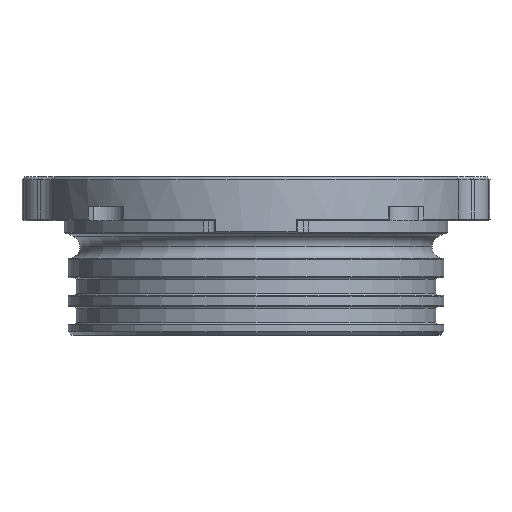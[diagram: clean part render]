
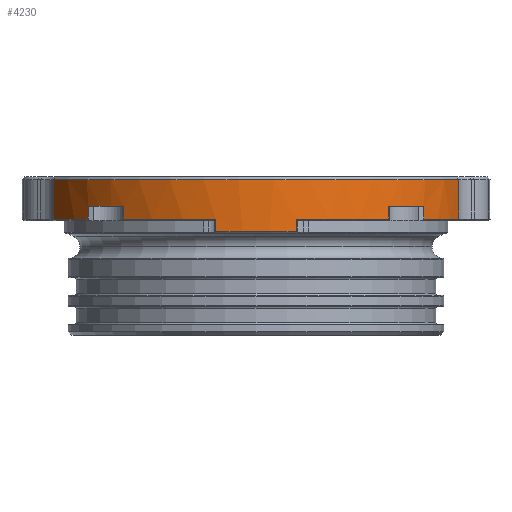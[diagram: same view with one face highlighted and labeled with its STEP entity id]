
A CAD part, left-side view. The second image highlights one B-rep face of the part: STEP entity #4230.
In plain terms, the highlighted cylindrical face has radius 29 mm (diameter 58 mm), a partial arc.
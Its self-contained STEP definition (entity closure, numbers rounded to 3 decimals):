
#86 = DIRECTION ( 'NONE',  ( 0., 1., 0. ) ) ;
#139 = CARTESIAN_POINT ( 'NONE',  ( 0., 0., 0. ) ) ;
#146 = VERTEX_POINT ( 'NONE', #4382 ) ;
#198 = CARTESIAN_POINT ( 'NONE',  ( -17.978, 22.755, 17.5 ) ) ;
#253 = LINE ( 'NONE', #4855, #3101 ) ;
#269 = ORIENTED_EDGE ( 'NONE', *, *, #1324, .T. ) ;
#450 = ORIENTED_EDGE ( 'NONE', *, *, #5236, .T. ) ;
#479 = EDGE_CURVE ( 'NONE', #6402, #5181, #986, .T. ) ;
#488 = DIRECTION ( 'NONE',  ( 0., 0., 1. ) ) ;
#499 = EDGE_CURVE ( 'NONE', #6505, #1263, #6293, .T. ) ;
#513 = LINE ( 'NONE', #643, #8127 ) ;
#551 = VERTEX_POINT ( 'NONE', #692 ) ;
#625 = ORIENTED_EDGE ( 'NONE', *, *, #693, .T. ) ;
#643 = CARTESIAN_POINT ( 'NONE',  ( -9.35, -27.451, 0. ) ) ;
#692 = CARTESIAN_POINT ( 'NONE',  ( -17.978, -22.755, 17.5 ) ) ;
#693 = EDGE_CURVE ( 'NONE', #5525, #3648, #6215, .T. ) ;
#803 = DIRECTION ( 'NONE',  ( 0., 0., 1. ) ) ;
#944 = VECTOR ( 'NONE', #5088, 1000. ) ;
#986 = LINE ( 'NONE', #4994, #7956 ) ;
#1068 = CIRCLE ( 'NONE', #3260, 29. ) ;
#1081 = CARTESIAN_POINT ( 'NONE',  ( -9.35, 27.451, 0. ) ) ;
#1263 = VERTEX_POINT ( 'NONE', #8401 ) ;
#1303 = VECTOR ( 'NONE', #6731, 1000. ) ;
#1324 = EDGE_CURVE ( 'NONE', #3365, #4732, #5669, .T. ) ;
#1354 = CIRCLE ( 'NONE', #8582, 29. ) ;
#1359 = VERTEX_POINT ( 'NONE', #7710 ) ;
#1433 = CARTESIAN_POINT ( 'NONE',  ( 0., 0., 21.1 ) ) ;
#1518 = CARTESIAN_POINT ( 'NONE',  ( 0., 0., 17.5 ) ) ;
#1532 = ORIENTED_EDGE ( 'NONE', *, *, #499, .T. ) ;
#1599 = DIRECTION ( 'NONE',  ( 0., 1., 0. ) ) ;
#1627 = AXIS2_PLACEMENT_3D ( 'NONE', #139, #2157, #1599 ) ;
#1810 = DIRECTION ( 'NONE',  ( 0., 0., 1. ) ) ;
#1817 = CARTESIAN_POINT ( 'NONE',  ( 0., 0., 15.754 ) ) ;
#1928 = EDGE_CURVE ( 'NONE', #6221, #6505, #2110, .T. ) ;
#2017 = EDGE_CURVE ( 'NONE', #4732, #6402, #2430, .T. ) ;
#2022 = ORIENTED_EDGE ( 'NONE', *, *, #4585, .T. ) ;
#2107 = EDGE_CURVE ( 'NONE', #7263, #5725, #513, .T. ) ;
#2110 = LINE ( 'NONE', #7030, #2141 ) ;
#2137 = CARTESIAN_POINT ( 'NONE',  ( -22.755, -17.978, 0. ) ) ;
#2141 = VECTOR ( 'NONE', #2200, 1000. ) ;
#2157 = DIRECTION ( 'NONE',  ( 0., 0., -1. ) ) ;
#2200 = DIRECTION ( 'NONE',  ( 0., 0., 1. ) ) ;
#2221 = AXIS2_PLACEMENT_3D ( 'NONE', #5024, #3089, #6386 ) ;
#2225 = DIRECTION ( 'NONE',  ( 0., 0., -1. ) ) ;
#2248 = CIRCLE ( 'NONE', #8233, 29. ) ;
#2430 = CIRCLE ( 'NONE', #2703, 29. ) ;
#2474 = AXIS2_PLACEMENT_3D ( 'NONE', #7750, #488, #5045 ) ;
#2663 = CARTESIAN_POINT ( 'NONE',  ( 0., 0., 14.05 ) ) ;
#2703 = AXIS2_PLACEMENT_3D ( 'NONE', #1518, #3547, #6335 ) ;
#2767 = ORIENTED_EDGE ( 'NONE', *, *, #2107, .T. ) ;
#2959 = VERTEX_POINT ( 'NONE', #4527 ) ;
#3007 = ORIENTED_EDGE ( 'NONE', *, *, #2017, .T. ) ;
#3049 = CARTESIAN_POINT ( 'NONE',  ( -22.755, -17.978, 17.5 ) ) ;
#3064 = ORIENTED_EDGE ( 'NONE', *, *, #3065, .T. ) ;
#3065 = EDGE_CURVE ( 'NONE', #5725, #1359, #1068, .T. ) ;
#3089 = DIRECTION ( 'NONE',  ( 0., 0., 1. ) ) ;
#3101 = VECTOR ( 'NONE', #2225, 1000. ) ;
#3193 = ORIENTED_EDGE ( 'NONE', *, *, #6559, .T. ) ;
#3260 = AXIS2_PLACEMENT_3D ( 'NONE', #1433, #7962, #4083 ) ;
#3296 = CARTESIAN_POINT ( 'NONE',  ( -28.478, 5.479, 14.05 ) ) ;
#3365 = VERTEX_POINT ( 'NONE', #8300 ) ;
#3430 = EDGE_CURVE ( 'NONE', #3648, #6221, #4942, .T. ) ;
#3510 = CARTESIAN_POINT ( 'NONE',  ( 0., 0., 15.754 ) ) ;
#3547 = DIRECTION ( 'NONE',  ( 0., 0., 1. ) ) ;
#3648 = VERTEX_POINT ( 'NONE', #3296 ) ;
#3692 = ORIENTED_EDGE ( 'NONE', *, *, #479, .T. ) ;
#3852 = CARTESIAN_POINT ( 'NONE',  ( -9.35, -27.451, 15.754 ) ) ;
#3893 = EDGE_CURVE ( 'NONE', #2959, #7263, #1354, .T. ) ;
#3900 = ORIENTED_EDGE ( 'NONE', *, *, #1928, .T. ) ;
#3903 = CARTESIAN_POINT ( 'NONE',  ( -9.35, -27.451, 21.1 ) ) ;
#4044 = CIRCLE ( 'NONE', #2221, 29. ) ;
#4083 = DIRECTION ( 'NONE',  ( 0., -1., 0. ) ) ;
#4208 = ORIENTED_EDGE ( 'NONE', *, *, #3430, .T. ) ;
#4230 = ADVANCED_FACE ( 'NONE', ( #5477 ), #5568, .T. ) ;
#4265 = CARTESIAN_POINT ( 'NONE',  ( -22.755, 17.978, 15.754 ) ) ;
#4382 = CARTESIAN_POINT ( 'NONE',  ( -9.35, 27.451, 15.754 ) ) ;
#4448 = EDGE_CURVE ( 'NONE', #1359, #146, #7687, .T. ) ;
#4527 = CARTESIAN_POINT ( 'NONE',  ( -17.978, -22.755, 15.754 ) ) ;
#4535 = ORIENTED_EDGE ( 'NONE', *, *, #4448, .T. ) ;
#4563 = DIRECTION ( 'NONE',  ( 0., 0., 1. ) ) ;
#4585 = EDGE_CURVE ( 'NONE', #1263, #7167, #6726, .T. ) ;
#4732 = VERTEX_POINT ( 'NONE', #198 ) ;
#4855 = CARTESIAN_POINT ( 'NONE',  ( -17.978, -22.755, 0. ) ) ;
#4931 = DIRECTION ( 'NONE',  ( 0., 0., 1. ) ) ;
#4942 = CIRCLE ( 'NONE', #8278, 29. ) ;
#4975 = VECTOR ( 'NONE', #5296, 1000. ) ;
#4994 = CARTESIAN_POINT ( 'NONE',  ( -22.755, 17.978, 0. ) ) ;
#5024 = CARTESIAN_POINT ( 'NONE',  ( 0., 0., 17.5 ) ) ;
#5045 = DIRECTION ( 'NONE',  ( 0., 1., 0. ) ) ;
#5088 = DIRECTION ( 'NONE',  ( 0., 0., -1. ) ) ;
#5181 = VERTEX_POINT ( 'NONE', #4265 ) ;
#5236 = EDGE_CURVE ( 'NONE', #5181, #5525, #6381, .T. ) ;
#5296 = DIRECTION ( 'NONE',  ( 0., 0., 1. ) ) ;
#5374 = DIRECTION ( 'NONE',  ( 0., 1., 0. ) ) ;
#5440 = CARTESIAN_POINT ( 'NONE',  ( -28.478, 5.479, 15.754 ) ) ;
#5477 = FACE_OUTER_BOUND ( 'NONE', #8124, .T. ) ;
#5513 = CARTESIAN_POINT ( 'NONE',  ( -28.478, 5.479, 0. ) ) ;
#5525 = VERTEX_POINT ( 'NONE', #5440 ) ;
#5568 = CYLINDRICAL_SURFACE ( 'NONE', #1627, 29. ) ;
#5585 = CARTESIAN_POINT ( 'NONE',  ( -17.978, 22.755, 0. ) ) ;
#5669 = LINE ( 'NONE', #5585, #7001 ) ;
#5725 = VERTEX_POINT ( 'NONE', #3903 ) ;
#6003 = EDGE_CURVE ( 'NONE', #7167, #551, #4044, .T. ) ;
#6127 = CARTESIAN_POINT ( 'NONE',  ( -28.482, -5.457, 14.05 ) ) ;
#6152 = DIRECTION ( 'NONE',  ( 0., 1., 0. ) ) ;
#6215 = LINE ( 'NONE', #5513, #1303 ) ;
#6221 = VERTEX_POINT ( 'NONE', #6127 ) ;
#6288 = CARTESIAN_POINT ( 'NONE',  ( -22.755, 17.978, 17.5 ) ) ;
#6293 = CIRCLE ( 'NONE', #7685, 29. ) ;
#6298 = DIRECTION ( 'NONE',  ( 0., 0., -1. ) ) ;
#6335 = DIRECTION ( 'NONE',  ( 0., 1., 0. ) ) ;
#6381 = CIRCLE ( 'NONE', #2474, 29. ) ;
#6386 = DIRECTION ( 'NONE',  ( 0., 1., 0. ) ) ;
#6402 = VERTEX_POINT ( 'NONE', #6288 ) ;
#6505 = VERTEX_POINT ( 'NONE', #7115 ) ;
#6527 = ORIENTED_EDGE ( 'NONE', *, *, #6003, .T. ) ;
#6559 = EDGE_CURVE ( 'NONE', #146, #3365, #2248, .T. ) ;
#6721 = CARTESIAN_POINT ( 'NONE',  ( 0., 0., 15.754 ) ) ;
#6726 = LINE ( 'NONE', #2137, #4975 ) ;
#6731 = DIRECTION ( 'NONE',  ( 0., 0., -1. ) ) ;
#7001 = VECTOR ( 'NONE', #4931, 1000. ) ;
#7030 = CARTESIAN_POINT ( 'NONE',  ( -28.482, -5.457, 0. ) ) ;
#7088 = DIRECTION ( 'NONE',  ( 0., 0., 1. ) ) ;
#7115 = CARTESIAN_POINT ( 'NONE',  ( -28.482, -5.457, 15.754 ) ) ;
#7125 = DIRECTION ( 'NONE',  ( 0., 1., 0. ) ) ;
#7167 = VERTEX_POINT ( 'NONE', #3049 ) ;
#7263 = VERTEX_POINT ( 'NONE', #3852 ) ;
#7350 = EDGE_CURVE ( 'NONE', #551, #2959, #253, .T. ) ;
#7353 = ORIENTED_EDGE ( 'NONE', *, *, #3893, .T. ) ;
#7572 = DIRECTION ( 'NONE',  ( 0., 0., 1. ) ) ;
#7685 = AXIS2_PLACEMENT_3D ( 'NONE', #1817, #7088, #7125 ) ;
#7687 = LINE ( 'NONE', #1081, #944 ) ;
#7710 = CARTESIAN_POINT ( 'NONE',  ( -9.35, 27.451, 21.1 ) ) ;
#7750 = CARTESIAN_POINT ( 'NONE',  ( 0., 0., 15.754 ) ) ;
#7956 = VECTOR ( 'NONE', #6298, 1000. ) ;
#7962 = DIRECTION ( 'NONE',  ( 0., 0., -1. ) ) ;
#8124 = EDGE_LOOP ( 'NONE', ( #4208, #3900, #1532, #2022, #6527, #8437, #7353, #2767, #3064, #4535, #3193, #269, #3007, #3692, #450, #625 ) ) ;
#8127 = VECTOR ( 'NONE', #1810, 1000. ) ;
#8233 = AXIS2_PLACEMENT_3D ( 'NONE', #6721, #803, #5374 ) ;
#8278 = AXIS2_PLACEMENT_3D ( 'NONE', #2663, #4563, #86 ) ;
#8300 = CARTESIAN_POINT ( 'NONE',  ( -17.978, 22.755, 15.754 ) ) ;
#8401 = CARTESIAN_POINT ( 'NONE',  ( -22.755, -17.978, 15.754 ) ) ;
#8437 = ORIENTED_EDGE ( 'NONE', *, *, #7350, .T. ) ;
#8582 = AXIS2_PLACEMENT_3D ( 'NONE', #3510, #7572, #6152 ) ;
